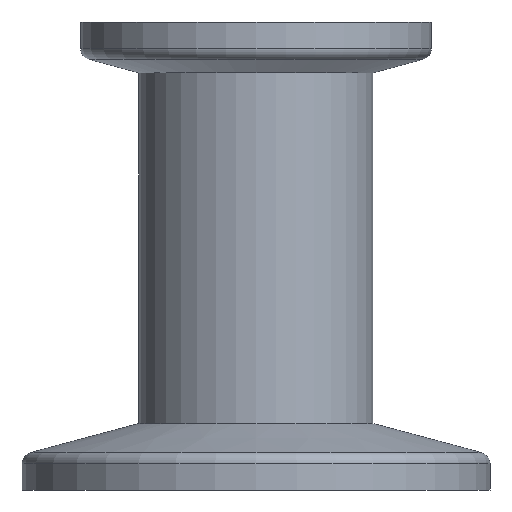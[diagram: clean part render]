
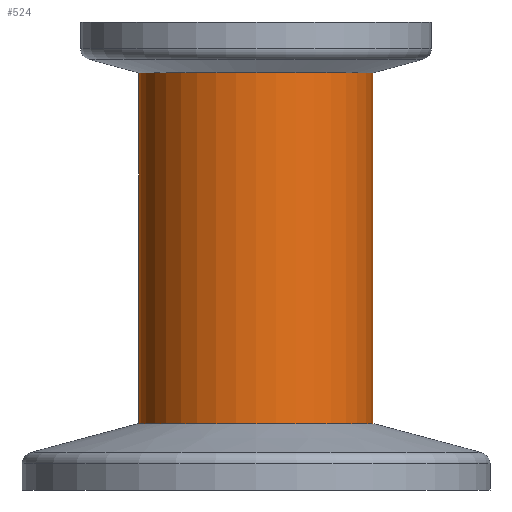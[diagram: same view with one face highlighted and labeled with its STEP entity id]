
A CAD part, left-side view. The second image highlights one B-rep face of the part: STEP entity #524.
In plain terms, the highlighted cylindrical face has radius 10 mm (diameter 20 mm), a partial arc.
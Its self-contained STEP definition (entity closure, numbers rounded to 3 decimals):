
#38 = AXIS2_PLACEMENT_3D ( 'NONE', #480, #423, #632 ) ;
#40 = CARTESIAN_POINT ( 'NONE',  ( 0., 0., -34.321 ) ) ;
#55 = EDGE_CURVE ( 'NONE', #111, #620, #182, .T. ) ;
#65 = CARTESIAN_POINT ( 'NONE',  ( 0., 0., -64.784 ) ) ;
#111 = VERTEX_POINT ( 'NONE', #452 ) ;
#116 = EDGE_LOOP ( 'NONE', ( #613, #427, #282, #337 ) ) ;
#151 = DIRECTION ( 'NONE',  ( 0., -1., 0. ) ) ;
#177 = AXIS2_PLACEMENT_3D ( 'NONE', #65, #434, #383 ) ;
#182 = LINE ( 'NONE', #225, #365 ) ;
#225 = CARTESIAN_POINT ( 'NONE',  ( 0., -10., -64.784 ) ) ;
#232 = EDGE_CURVE ( 'NONE', #267, #111, #456, .T. ) ;
#267 = VERTEX_POINT ( 'NONE', #416 ) ;
#273 = CARTESIAN_POINT ( 'NONE',  ( 0., -10., -4.34 ) ) ;
#282 = ORIENTED_EDGE ( 'NONE', *, *, #55, .T. ) ;
#337 = ORIENTED_EDGE ( 'NONE', *, *, #377, .F. ) ;
#352 = VECTOR ( 'NONE', #453, 1000. ) ;
#365 = VECTOR ( 'NONE', #659, 1000. ) ;
#377 = EDGE_CURVE ( 'NONE', #381, #620, #478, .T. ) ;
#381 = VERTEX_POINT ( 'NONE', #474 ) ;
#383 = DIRECTION ( 'NONE',  ( 0., -1., 0. ) ) ;
#416 = CARTESIAN_POINT ( 'NONE',  ( 0., 10., -34.321 ) ) ;
#421 = AXIS2_PLACEMENT_3D ( 'NONE', #40, #583, #151 ) ;
#423 = DIRECTION ( 'NONE',  ( 0., 0., 1. ) ) ;
#427 = ORIENTED_EDGE ( 'NONE', *, *, #232, .T. ) ;
#434 = DIRECTION ( 'NONE',  ( 0., 0., 1. ) ) ;
#452 = CARTESIAN_POINT ( 'NONE',  ( 0., -10., -34.321 ) ) ;
#453 = DIRECTION ( 'NONE',  ( 0., 0., 1. ) ) ;
#456 = CIRCLE ( 'NONE', #421, 10. ) ;
#474 = CARTESIAN_POINT ( 'NONE',  ( 0., 10., -4.34 ) ) ;
#478 = CIRCLE ( 'NONE', #38, 10. ) ;
#480 = CARTESIAN_POINT ( 'NONE',  ( 0., 0., -4.34 ) ) ;
#524 = ADVANCED_FACE ( 'NONE', ( #599 ), #636, .T. ) ;
#583 = DIRECTION ( 'NONE',  ( 0., 0., 1. ) ) ;
#599 = FACE_OUTER_BOUND ( 'NONE', #116, .T. ) ;
#610 = CARTESIAN_POINT ( 'NONE',  ( 0., 10., -64.784 ) ) ;
#613 = ORIENTED_EDGE ( 'NONE', *, *, #657, .F. ) ;
#620 = VERTEX_POINT ( 'NONE', #273 ) ;
#632 = DIRECTION ( 'NONE',  ( 0., -1., 0. ) ) ;
#636 = CYLINDRICAL_SURFACE ( 'NONE', #177, 10. ) ;
#643 = LINE ( 'NONE', #610, #352 ) ;
#657 = EDGE_CURVE ( 'NONE', #267, #381, #643, .T. ) ;
#659 = DIRECTION ( 'NONE',  ( 0., 0., 1. ) ) ;
